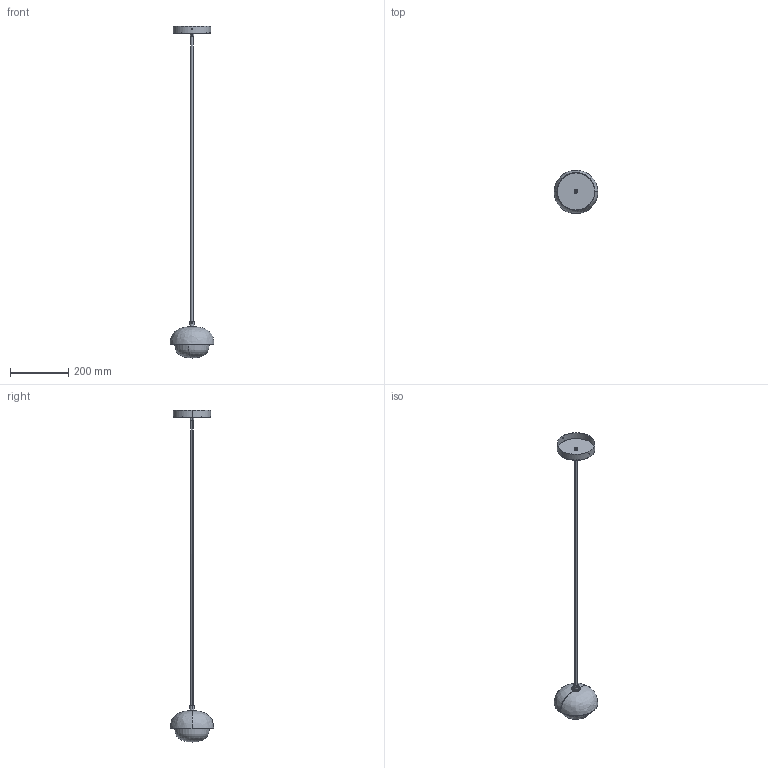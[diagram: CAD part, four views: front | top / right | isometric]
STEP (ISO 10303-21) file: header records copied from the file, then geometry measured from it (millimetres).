
FILE_DESCRIPTION(/* description */ (''),/* implementation_level */ '2;1');
FILE_NAME(/* name */ '59MOIC~I',/* time_stamp */ '2021-10-27T11:22:07+02:00',/* author */ (''),/* organization */ (''),/* preprocessor_version */ 'ST-DEVELOPER v15',/* originating_system */ '',/* authorisation */ '');
FILE_SCHEMA (('AUTOMOTIVE_DESIGN'));
Length unit declared in the file: millimetre
Products named in the file (1): Document
Bounding box: 150.7 x 150.62 x 1142.46 mm (x, y, z)
Volume: 317913 mm3; surface area: 337670.6 mm2
Topology: 9 solids, 9 shells, 93 faces, 215 edges, 128 vertices
Faces by surface type: bspline 93
Entity records: 17843 total; most frequent: CARTESIAN_POINT 15232, B_SPLINE_CURVE_WITH_KNOTS 439, ORIENTED_EDGE 416, PCURVE 416, DEFINITIONAL_REPRESENTATION 416, SURFACE_CURVE 208, EDGE_CURVE 208, VERTEX_POINT 128
